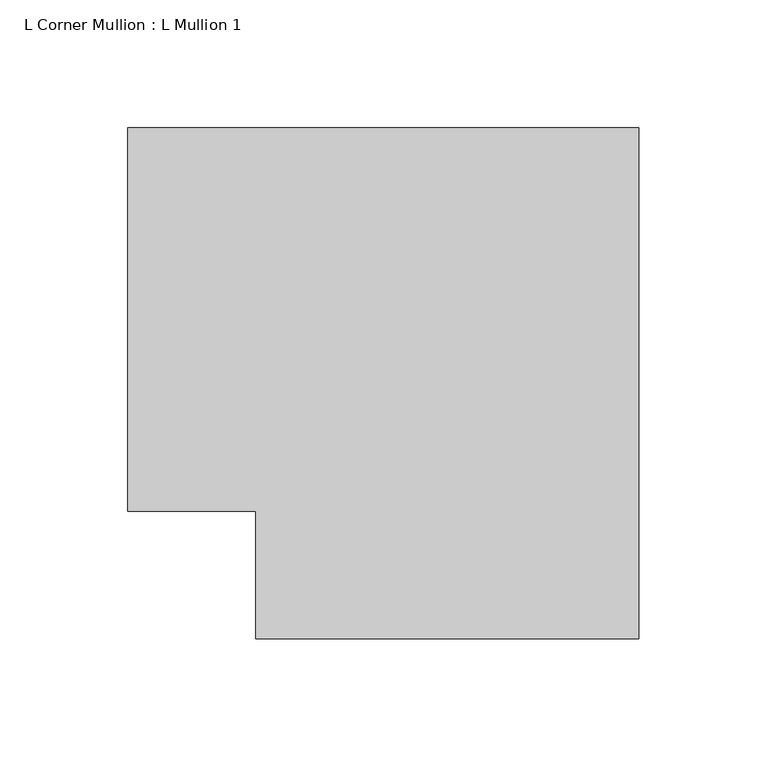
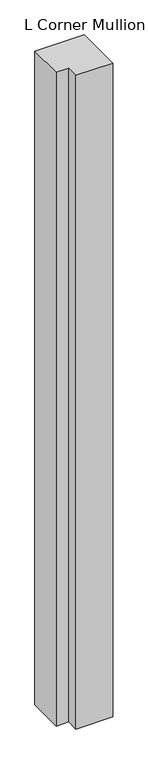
"""IFC4 building model written with IfcOpenShell, lengths in millimetres: member geometry, L Corner Mullion : L Mullion 1."""

from ifc_helpers import new_model, si_unit, frame, origin, place, context, project, spatial, polyline, outline, extrude, source, transform, mapped, element, save


def l_corner_mullion_l_mullion_1_830c55f5(model_context):
    return source(origin(), model_context, "Body", "SweptSolid", [
        extrude(outline(polyline([(-75.0, -125.0), (-75.0, -75.0), (-125.0, -75.0), (-125.0, 75.0), (75.0, 75.0), (75.0, -125.0), (-75.0, -125.0)])), frame((0.0, 0.0, -2800.0), z_axis=(0.0, 0.0, 1.0), x_axis=(1.0, 0.0, 0.0)), (0.0, 0.0, 1.0), 2800.0),
    ])


if __name__ == "__main__":
    model = new_model("IFC4")
    model_context = context("Model", 3, world=origin())
    ifc_project = project(units=[si_unit("LENGTHUNIT", "METRE", prefix="MILLI")], contexts=[model_context])
    site = spatial("IfcSite", under=ifc_project)
    building = spatial("IfcBuilding", under=site)
    placement = place(None, origin())
    l_corner_mullion_l_mullion_1_shape = l_corner_mullion_l_mullion_1_830c55f5(model_context)
    element("IfcMember", 1, ObjectType="L Corner Mullion : L Mullion 1", at=placement, inside=building, context=model_context, shape_type="MappedRepresentation", body=[
        mapped(l_corner_mullion_l_mullion_1_shape, transform((0.0, 0.0, 0.0), x_axis=(1.0, 0.0, 0.0), y_axis=(0.0, 1.0, 0.0), z_axis=(0.0, 0.0, 1.0))),
    ])
    save(model, "model.ifc")
